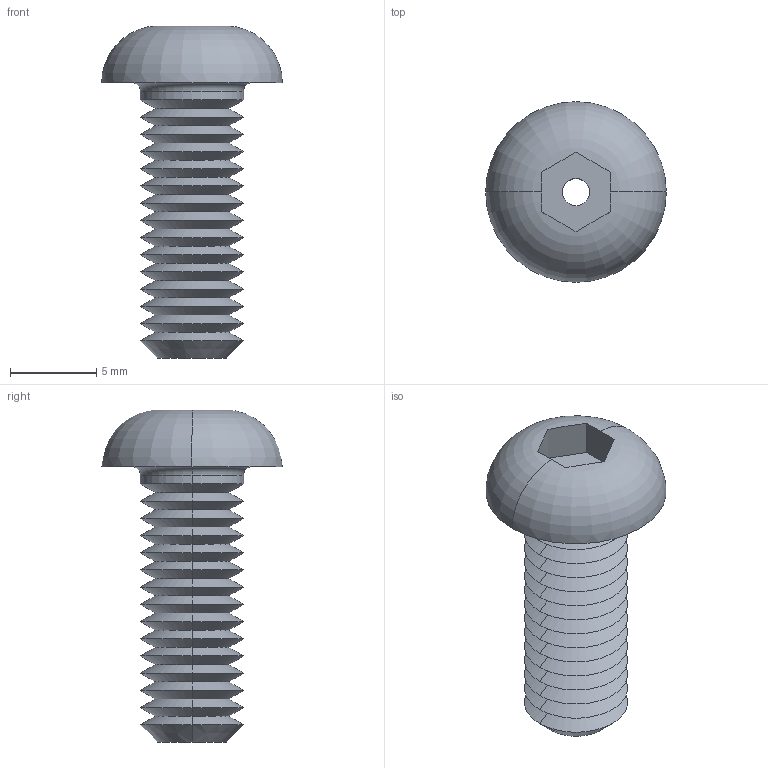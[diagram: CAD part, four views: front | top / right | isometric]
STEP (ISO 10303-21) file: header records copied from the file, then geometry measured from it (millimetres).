
FILE_DESCRIPTION (( 'STEP AP203' ), '1' );
FILE_NAME ('P0094.060-016-A2.step', '2019-07-12T16:55:27', ( '' ), ( '' ), 'SwSTEP 2.0', 'SolidWorks 2017', '' );
FILE_SCHEMA (( 'CONFIG_CONTROL_DESIGN' ));
Length unit declared in the file: millimetre
Products named in the file (1): P0094.060-016-A2
Bounding box: 10.5 x 10.5 x 19.3 mm (x, y, z)
Volume: 497.8 mm3; surface area: 814.8 mm2
Topology: 1 solids, 1 shells, 75 faces, 156 edges, 84 vertices
Faces by surface type: cone 58, plane 9, cylinder 4, torus 4
Entity records: 2045 total; most frequent: DIRECTION 374, CARTESIAN_POINT 352, ORIENTED_EDGE 312, EDGE_CURVE 156, AXIS2_PLACEMENT_3D 150, VERTEX_POINT 84, EDGE_LOOP 78, ADVANCED_FACE 75
